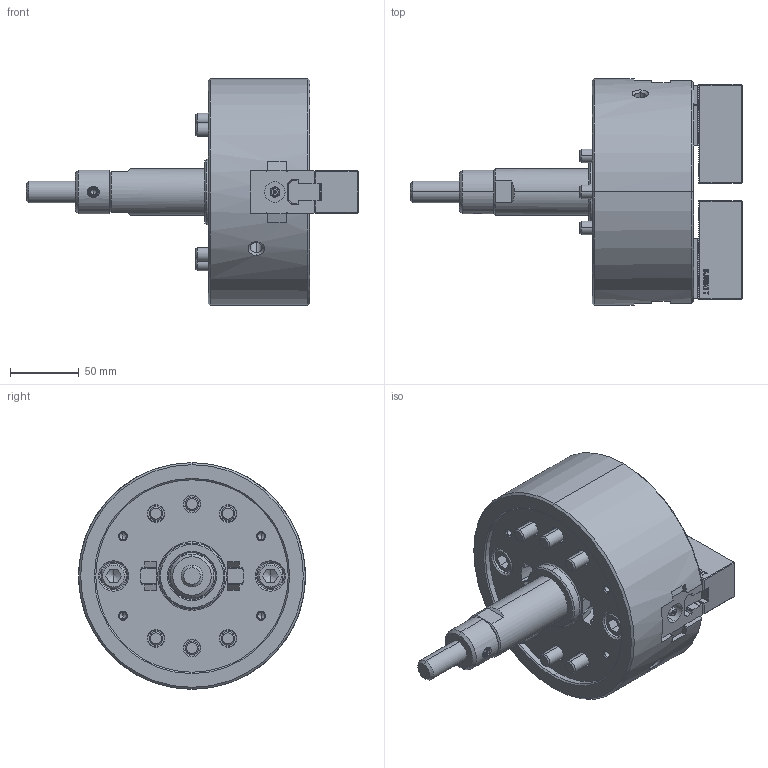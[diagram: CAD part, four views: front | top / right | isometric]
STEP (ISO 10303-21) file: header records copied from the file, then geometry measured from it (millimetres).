
FILE_DESCRIPTION (( 'STEP AP214' ), '1' );
FILE_NAME ('DT1_NLT06_OUTSIDE_VIEW_OC.STEP', '2026-03-23T01:12:59', ( '' ), ( '' ), 'SwSTEP 2.0', 'SolidWorks 2022', '' );
FILE_SCHEMA (( 'AUTOMOTIVE_DESIGN' ));
Length unit declared in the file: millimetre
Products named in the file (11): DT1_NLT06_M10x30^DT1_NLT06; DT1_NLT06_DN^DT1_NLT06; DT1_NLT06_OUTSIDE_VIEW_OC; Copy of P31410^DT1_NLT06; DT1_NLT06_COVER^DT1_NLT06; DT1_NLT06_BASE^DT1_NLT06; DT1_NLT06_M5x12^DT1_NLT06; DT1_NLT06_SOFTJAW^DT1_NLT06; DT1_NLT06_M10x70^DT1_NLT06; DT1_NLT06_TNUT^DT1_NLT06; DT1_NLT06_DRAWSCREW^DT1_NLT06
Assembly tree (23 placements, depth 2):
  DT1_NLT06_OUTSIDE_VIEW_OC
    DT1_NLT06_SOFTJAW^DT1_NLT06  x2
    DT1_NLT06_TNUT^DT1_NLT06  x2
    DT1_NLT06_COVER^DT1_NLT06
    DT1_NLT06_DRAWSCREW^DT1_NLT06
    Copy of P31410^DT1_NLT06
    DT1_NLT06_DN^DT1_NLT06
    DT1_NLT06_BASE^DT1_NLT06
    DT1_NLT06_M10x70^DT1_NLT06  x6
    DT1_NLT06_M10x30^DT1_NLT06  x4
    DT1_NLT06_M5x12^DT1_NLT06  x4
Bounding box: 241.5 x 165 x 165 mm (x, y, z)
Volume: 1639381 mm3; surface area: 247591.1 mm2
Topology: 23 solids, 23 shells, 3266 faces, 9085 edges, 5906 vertices
Faces by surface type: plane 1838, cylinder 815, cone 331, bspline 236, torus 42, sphere 4
Entity records: 82954 total; most frequent: CARTESIAN_POINT 24951, ORIENTED_EDGE 13068, DIRECTION 10311, EDGE_CURVE 6534, VECTOR 4445, LINE 4445, VERTEX_POINT 4265, AXIS2_PLACEMENT_3D 2933
